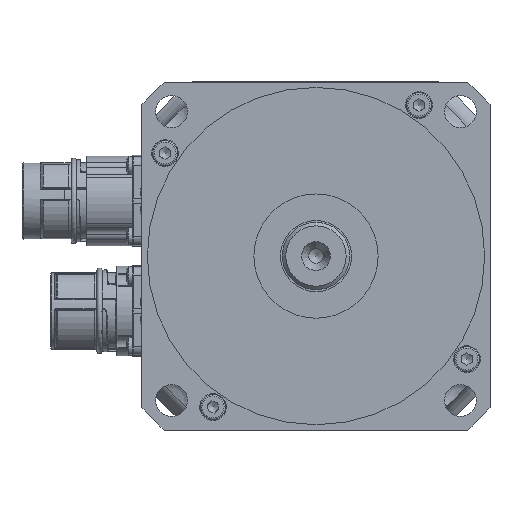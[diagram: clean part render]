
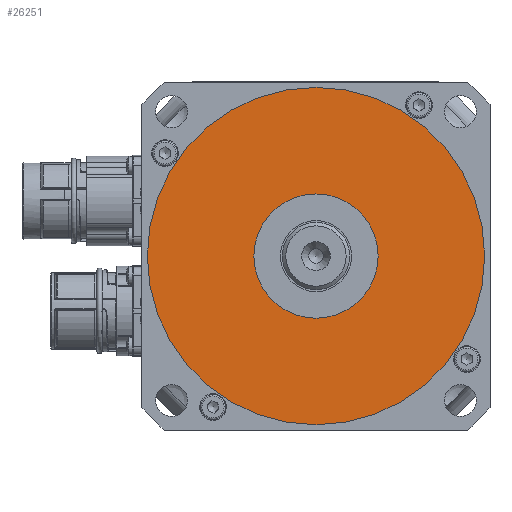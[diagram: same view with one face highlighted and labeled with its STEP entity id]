
A CAD part, left-side view. The second image highlights one B-rep face of the part: STEP entity #26251.
In plain terms, the highlighted planar face has unit normal (-1, 0, 0).
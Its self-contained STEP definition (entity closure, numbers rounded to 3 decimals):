
#1058=FACE_BOUND('',#8254,.T.);
#6567=FACE_OUTER_BOUND('',#8253,.T.);
#8253=EDGE_LOOP('',(#18360));
#8254=EDGE_LOOP('',(#18361));
#10322=CIRCLE('',#28132,47.5);
#10323=CIRCLE('',#28133,17.5);
#12131=VERTEX_POINT('',#39829);
#12132=VERTEX_POINT('',#39831);
#14567=EDGE_CURVE('',#12131,#12131,#10322,.T.);
#14568=EDGE_CURVE('',#12132,#12132,#10323,.T.);
#18360=ORIENTED_EDGE('',*,*,#14567,.T.);
#18361=ORIENTED_EDGE('',*,*,#14568,.F.);
#25756=PLANE('',#28131);
#26251=ADVANCED_FACE('',(#6567,#1058),#25756,.F.);
#28131=AXIS2_PLACEMENT_3D('',#39828,#31737,#31738);
#28132=AXIS2_PLACEMENT_3D('',#39830,#31739,#31740);
#28133=AXIS2_PLACEMENT_3D('',#39832,#31741,#31742);
#31737=DIRECTION('center_axis',(1.,0.,0.));
#31738=DIRECTION('ref_axis',(0.,0.,-1.));
#31739=DIRECTION('center_axis',(-1.,0.,0.));
#31740=DIRECTION('ref_axis',(0.,0.,1.));
#31741=DIRECTION('center_axis',(-1.,0.,0.));
#31742=DIRECTION('ref_axis',(0.,1.,0.));
#39828=CARTESIAN_POINT('Origin',(-37.394,47.5,0.));
#39829=CARTESIAN_POINT('',(-37.394,47.5,0.));
#39830=CARTESIAN_POINT('Origin',(-37.394,0.,0.));
#39831=CARTESIAN_POINT('',(-37.394,-17.5,0.));
#39832=CARTESIAN_POINT('Origin',(-37.394,0.,
0.));
